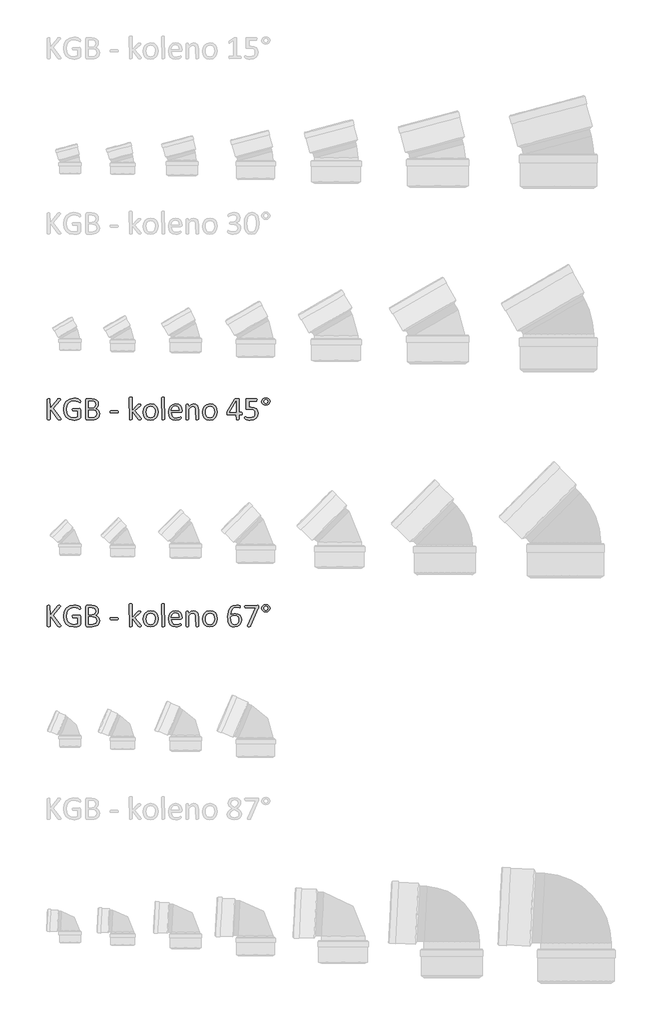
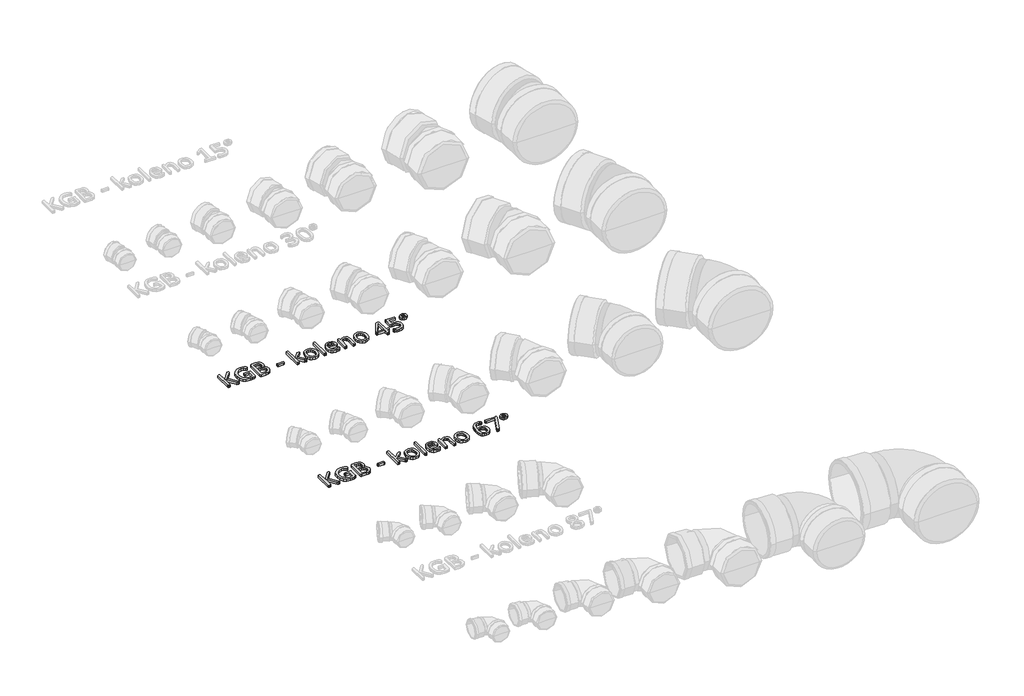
# One storey, part 10 of 11: 2 proxies.
"""IFC4 building model written with IfcOpenShell, lengths in millimetres."""

from ifc_helpers import new_model, si_unit, origin, origin_with_axes, place, context, project, spatial, polyline, outline, extrude, element, save

model = new_model("IFC4")

# Units and contexts
model_context = context("Model", 3, world=origin())
ifc_project = project(units=[si_unit("LENGTHUNIT", "METRE", prefix="MILLI")], contexts=[model_context])

# Site, building, storey
site = spatial("IfcSite", under=ifc_project)
building = spatial("IfcBuilding", under=site)
storey = spatial("IfcBuildingStorey", under=building, Name="Podlaží 1", Elevation=0.0)

# Proxies
placement = place(None, origin())
element("IfcBuildingElementProxy", 1, Name="120mm Arial", ObjectType="120mm Arial", at=placement, inside=storey, context=model_context, shape_type="SweptSolid", body=[
    extrude(outline(polyline([(-20461.7095957, 21408.4256246), (-20463.1390607, 21405.4038441), (-20465.6541954, 21404.8067258), (-20469.7254566, 21404.5714973), (-20475.0090489, 21404.8429147), (-20478.0670185, 21405.8562064), (-20479.7498064, 21407.5389944), (-20523.8641833, 21467.1784473), (-20523.8641833, 21407.5389944), (-20525.5650658, 21405.3676551), (-20528.062106, 21404.8067258), (-20531.9705167, 21404.5714973), (-20535.8427385, 21404.8067258), (-20538.3759677, 21405.3676551), (-20539.6968658, 21406.2904743), (-20539.6968658, 21522.0409538), (-20535.8427385, 21524.7732224), (-20531.9705167, 21525.0084509), (-20528.062106, 21524.7732224), (-20525.5650658, 21524.2122931), (-20523.8641833, 21469.0240857), (-20481.4144999, 21522.0409538), (-20480.0936018, 21523.4342299), (-20478.3022469, 21524.3208601), (-20475.7147342, 21524.8275059), (-20471.75204, 21525.0084509), (-20467.8798182, 21524.7732224), (-20465.5094395, 21524.1761041), (-20464.5685258, 21519.6524806), (-20466.8665265, 21516.3230936), (-20506.6382248, 21469.0240857), (-20463.7904625, 21412.4245078), (-20461.7095957, 21408.4256246)])), origin_with_axes(), (0.0, 0.0, 1.0), 15.0),
    extrude(outline(polyline([(-20350.1570388, 21509.2300519), (-20350.3379838, 21505.9549484), (-20350.8989131, 21503.5845697), (-20351.8398268, 21502.2455771), (-20356.7434347, 21503.6569477), (-20363.7279095, 21507.6377364), (-20374.1865272, 21511.6185251), (-20388.6259335, 21513.4279746), (-20406.4851993, 21509.7547922), (-20419.8751251, 21499.5856865), (-20428.2890649, 21484.1510829), (-20431.2203729, 21464.7537851), (-20428.0176475, 21444.0174947), (-20419.1332508, 21428.7638361), (-20405.5804746, 21419.3546991), (-20388.3364216, 21416.1519736), (-20377.0092683, 21417.4728717), (-20366.3697057, 21421.399377), (-20366.3697057, 21455.5255931), (-20393.40288, 21455.5255931), (-20395.7189753, 21457.208381), (-20396.478944, 21462.4376898), (-20396.2979991, 21465.6223208), (-20395.7008808, 21467.7936601), (-20355.7301431, 21469.4221646), (-20353.7216542, 21469.0602747), (-20351.8941103, 21467.9565106), (-20350.6094012, 21465.9118327), (-20350.1570388, 21462.9443357), (-20350.1570388, 21417.3462102), (-20350.9893856, 21413.1663821), (-20354.5178119, 21410.0722236), (-20361.4660977, 21407.15901), (-20370.2600219, 21404.4810249), (-20379.4339305, 21402.8163314), (-20388.5897446, 21402.2554021), (-20413.4334851, 21406.6342697), (-20431.9260582, 21419.1013762), (-20443.452251, 21438.462485), (-20447.4330398, 21463.6681154), (-20443.1446446, 21489.9051321), (-20431.039428, 21509.9357372), (-20412.2754375, 21522.7647336), (-20388.0469097, 21527.3245461), (-20375.1998188, 21526.148404), (-20364.5240672, 21523.3980409), (-20356.6710568, 21519.960087), (-20352.2921892, 21516.9202119), (-20350.6274957, 21514.0612818), (-20350.1570388, 21509.2300519)])), origin_with_axes(), (0.0, 0.0, 1.0), 15.0),
    extrude(outline(polyline([(-20241.3005616, 21438.6253355), (-20242.7300267, 21428.3114737), (-20246.7470044, 21419.8070615), (-20252.9715104, 21413.2025711), (-20261.1864108, 21408.4256246), (-20270.9755321, 21405.5305055), (-20282.9178983, 21404.5714973), (-20314.1489953, 21404.5714973), (-20318.1478786, 21406.0190569), (-20320.0478005, 21411.0855152), (-20320.0478005, 21518.4944329), (-20318.1297841, 21523.5608913), (-20314.0766174, 21525.0084509), (-20286.7177421, 21525.0084509), (-20269.0032323, 21522.927584), (-20257.5132284, 21516.8840229), (-20250.5830371, 21507.1491851), (-20248.2488474, 21494.1030547), (-20249.2802336, 21485.7976819), (-20252.3020141, 21478.4694117), (-20257.3322835, 21472.4620396), (-20264.2805693, 21468.119361), (-20255.3057001, 21464.7718796), (-20248.0317135, 21458.5654681), (-20243.110011, 21449.7534494), (-20241.3005616, 21438.6253355)]), holes=[polyline([(-20264.4615142, 21491.9317154), (-20265.6738453, 21499.9294819), (-20269.4736891, 21505.9911374), (-20276.24103, 21509.7909812), (-20287.2967659, 21511.1118793), (-20303.8351336, 21511.1118793), (-20303.8351336, 21471.7382599), (-20285.6320725, 21471.7382599), (-20275.6077227, 21473.3848588), (-20269.2927442, 21477.7999154), (-20265.6195618, 21484.2777444), (-20264.4615142, 21491.9317154)]), polyline([(-20257.5132284, 21438.4805795), (-20259.2141109, 21447.8173385), (-20264.1900968, 21454.5846794), (-20272.4049972, 21458.746413), (-20284.8359147, 21460.1577836), (-20303.8351336, 21460.1577836), (-20303.8351336, 21418.4680689), (-20280.782748, 21418.4680689), (-20271.265044, 21419.752778), (-20264.1177188, 21423.5526218), (-20259.2683944, 21429.8133168), (-20257.5132284, 21438.4805795)])]), origin_with_axes(), (0.0, 0.0, 1.0), 15.0),
    extrude(outline(polyline([(-20134.7601797, 21449.7715439), (-20135.6106209, 21445.2117313), (-20138.0895666, 21443.9451168), (-20177.6803199, 21443.9451168), (-20180.2316436, 21445.2479203), (-20181.0820849, 21449.7715439), (-20180.2316436, 21454.2589785), (-20177.6803199, 21455.5255931), (-20138.0895666, 21455.5255931), (-20134.9954081, 21452.485718), (-20134.7601797, 21449.7715439)])), origin_with_axes(), (0.0, 0.0, 1.0), 15.0),
    extrude(outline(polyline([(-20002.7427498, 21407.5028054), (-20006.814011, 21404.7524423), (-20010.8128943, 21404.5714973), (-20014.9384389, 21404.7162533), (-20017.6888021, 21405.1686156), (-20019.4982515, 21406.0733404), (-20020.7648661, 21407.5028054), (-20056.0129408, 21453.0647418), (-20056.0129408, 21407.3942384), (-20060.1384855, 21404.7524423), (-20064.1554632, 21404.5714973), (-20068.100063, 21404.7524423), (-20070.5971032, 21405.3133716), (-20072.2256076, 21531.3053348), (-20068.100063, 21534.0918869), (-20064.1554632, 21534.2728319), (-20060.1384855, 21534.0918869), (-20057.6957288, 21533.5309576), (-20056.4110197, 21532.5900439), (-20056.0129408, 21455.1637032), (-20023.8047411, 21489.3984862), (-20022.1943311, 21490.9003292), (-20020.1677478, 21491.8955264), (-20017.3811957, 21492.4383613), (-20013.4908794, 21492.5831172), (-20009.5100907, 21492.4383613), (-20006.922578, 21491.9859989), (-20005.493113, 21491.1717467), (-20005.6921524, 21487.6433203), (-20007.8092082, 21485.0919966), (-20039.800274, 21455.2722701), (-20005.0226561, 21411.809295), (-20003.2674902, 21409.2941603), (-20002.7427498, 21407.5028054)])), origin_with_axes(), (0.0, 0.0, 1.0), 15.0),
    extrude(outline(polyline([(-19907.7828442, 21449.482032), (-19910.4608293, 21430.5009075), (-19918.4766903, 21415.5548553), (-19931.830427, 21405.7657339), (-19950.4134726, 21402.2554021), (-19968.3270218, 21405.3495606), (-19981.0655458, 21414.3425242), (-19988.6652333, 21428.6733636), (-19991.1622735, 21447.7811495), (-19988.5204774, 21466.762274), (-19980.5588999, 21481.6902317), (-19967.2594467, 21491.4250696), (-19948.6402121, 21494.8992125), (-19930.7085683, 21491.805054), (-19917.9700444, 21482.8120903), (-19910.3341679, 21468.4812509), (-19907.7828442, 21449.482032)]), holes=[polyline([(-19923.995511, 21448.3963623), (-19925.2440311, 21460.9720358), (-19929.3514813, 21471.3582755), (-19937.0778303, 21478.4151282), (-19949.2554249, 21481.0026409), (-19960.8178067, 21478.6322622), (-19968.7793842, 21471.9372993), (-19973.4296692, 21461.6958156), (-19974.9496067, 21448.7582522), (-19973.7010866, 21436.1102008), (-19969.5574474, 21425.7601501), (-19961.7768149, 21418.7394863), (-19949.6173148, 21416.1519736), (-19938.091122, 21418.5223524), (-19930.0752611, 21425.1630318), (-19925.461165, 21435.3683265), (-19923.995511, 21448.3963623)])]), origin_with_axes(), (0.0, 0.0, 1.0), 15.0),
    extrude(outline(polyline([(-19870.72532, 21407.4304274), (-19874.8508647, 21404.7524423), (-19878.8678424, 21404.5714973), (-19882.8124422, 21404.7524423), (-19885.3094824, 21405.3133716), (-19886.9379868, 21531.3053348), (-19882.8124422, 21534.0918869), (-19878.8678424, 21534.2728319), (-19874.8508647, 21534.0918869), (-19872.408108, 21533.5309576), (-19870.72532, 21407.4304274)])), origin_with_axes(), (0.0, 0.0, 1.0), 15.0),
    extrude(outline(polyline([(-19771.1332238, 21452.8837969), (-19772.9245788, 21447.7811495), (-19777.0320289, 21446.261212), (-19831.3517006, 21446.261212), (-19829.9946135, 21432.8712863), (-19825.4890845, 21422.6659915), (-19817.2741841, 21416.1157846), (-19804.89755, 21413.8358784), (-19794.6198773, 21414.9034535), (-19786.8030558, 21417.3100213), (-19781.3928021, 21419.716589), (-19778.1900766, 21420.7841642), (-19775.8920758, 21417.8890451), (-19775.7654144, 21415.2472489), (-19775.8558868, 21413.311138), (-19780.3071324, 21407.9189788), (-19786.6582999, 21405.4219386), (-19795.705547, 21403.2325048), (-19806.6708105, 21402.2554021), (-19824.3491313, 21405.1505211), (-19837.1057498, 21413.7635004), (-19844.9225713, 21428.1124343), (-19847.5643674, 21448.1430394), (-19844.7959098, 21467.6850932), (-19836.8162378, 21482.3778225), (-19824.2224699, 21491.660298), (-19807.6841022, 21494.8992125), (-19791.0371675, 21491.768865), (-19779.7281086, 21483.3368307), (-19773.2140907, 21470.9059131), (-19771.1332238, 21455.670349), (-19771.1332238, 21452.8837969)]), holes=[polyline([(-19787.3458907, 21457.8416883), (-19788.5175092, 21468.46768), (-19792.5390105, 21476.5333008), (-19799.310875, 21481.6223773), (-19808.7335828, 21483.3187362), (-19818.3779482, 21481.2197748), (-19825.3081395, 21475.6285761), (-19829.6327236, 21467.5041482), (-19831.3517006, 21457.8416883), (-19787.3458907, 21457.8416883)])]), origin_with_axes(), (0.0, 0.0, 1.0), 15.0),
    extrude(outline(polyline([(-19676.1733182, 21407.4304274), (-19680.2988629, 21404.7524423), (-19684.2434626, 21404.5714973), (-19688.2604403, 21404.7524423), (-19690.703197, 21405.2952771), (-19692.385985, 21455.778916), (-19693.4535602, 21467.1422583), (-19696.5477187, 21474.5790955), (-19701.8132165, 21479.3560419), (-19709.2862426, 21481.0026409), (-19720.2696006, 21476.9675687), (-19731.7596044, 21465.115675), (-19731.7596044, 21407.4304274), (-19735.8851491, 21404.7524423), (-19739.9021268, 21404.5714973), (-19743.8467266, 21404.7524423), (-19746.3437668, 21405.2952771), (-19747.9722712, 21489.7603761), (-19744.2448054, 21492.4383613), (-19740.5897176, 21492.5831172), (-19737.0070077, 21492.4383613), (-19734.7994794, 21491.8955264), (-19733.3157309, 21478.8674906), (-19719.4734428, 21491.0450852), (-19705.5587768, 21494.8992125), (-19691.7345832, 21492.0764714), (-19682.6511471, 21484.5310673), (-19677.6751612, 21473.4753313), (-19676.1733182, 21458.2397672), (-19676.1733182, 21407.4304274)])), origin_with_axes(), (0.0, 0.0, 1.0), 15.0),
    extrude(outline(polyline([(-19569.6329362, 21449.482032), (-19572.3109214, 21430.5009075), (-19580.3267823, 21415.5548553), (-19593.680519, 21405.7657339), (-19612.2635646, 21402.2554021), (-19630.1771139, 21405.3495606), (-19642.9156378, 21414.3425242), (-19650.5153254, 21428.6733636), (-19653.0123656, 21447.7811495), (-19650.3705694, 21466.762274), (-19642.408992, 21481.6902317), (-19629.1095387, 21491.4250696), (-19610.4903042, 21494.8992125), (-19592.5586604, 21491.805054), (-19579.8201365, 21482.8120903), (-19572.1842599, 21468.4812509), (-19569.6329362, 21449.482032)]), holes=[polyline([(-19585.845603, 21448.3963623), (-19587.0941231, 21460.9720358), (-19591.2015733, 21471.3582755), (-19598.9279224, 21478.4151282), (-19611.105517, 21481.0026409), (-19622.6678988, 21478.6322622), (-19630.6294762, 21471.9372993), (-19635.2797612, 21461.6958156), (-19636.7996988, 21448.7582522), (-19635.5511787, 21436.1102008), (-19631.4075395, 21425.7601501), (-19623.626907, 21418.7394863), (-19611.4674068, 21416.1519736), (-19599.941214, 21418.5223524), (-19591.9253531, 21425.1630318), (-19587.3112571, 21435.3683265), (-19585.845603, 21448.3963623)])]), origin_with_axes(), (0.0, 0.0, 1.0), 15.0),
    extrude(outline(polyline([(-19427.4825896, 21439.3129262), (-19428.4235033, 21434.2283734), (-19431.0291105, 21432.3646405), (-19444.5637922, 21432.3646405), (-19444.5637922, 21407.4304274), (-19446.3008636, 21405.2952771), (-19448.8340928, 21404.7524423), (-19452.8148815, 21404.5714973), (-19456.6871033, 21404.7524423), (-19459.166049, 21405.2952771), (-19460.776459, 21432.3646405), (-19509.8125383, 21432.3646405), (-19511.6581767, 21432.6541524), (-19512.9790748, 21433.7217275), (-19513.8114215, 21435.9473503), (-19514.04665, 21439.7110051), (-19513.9561775, 21443.0042031), (-19513.5942876, 21445.6640937), (-19512.8524134, 21447.980189), (-19511.7667437, 21450.3505677), (-19469.0275484, 21522.1857098), (-19467.6523668, 21523.4523243), (-19465.3000825, 21524.3570491), (-19461.7535617, 21524.8636949), (-19456.7956703, 21525.0084509), (-19451.294944, 21524.7732224), (-19447.5131947, 21524.1761041), (-19445.3237609, 21523.2170959), (-19444.5637922, 21446.261212), (-19431.0291105, 21446.261212), (-19428.4596923, 21444.5422351), (-19427.4825896, 21439.3129262)]), holes=[polyline([(-19460.776459, 21511.0756903), (-19499.4986766, 21446.261212), (-19460.776459, 21446.261212), (-19460.776459, 21511.0756903)])]), origin_with_axes(), (0.0, 0.0, 1.0), 15.0),
    extrude(outline(polyline([(-19335.707315, 21442.2080453), (-19338.9824184, 21425.2173152), (-19348.2467994, 21412.6778307), (-19362.5052609, 21404.9152927), (-19380.9073615, 21402.2554021), (-19391.5650186, 21403.0515598), (-19400.5398877, 21405.0238597), (-19406.9996222, 21407.3218605), (-19410.2204421, 21409.1132154), (-19412.0479861, 21413.7092169), (-19412.1384585, 21416.6224305), (-19411.9937026, 21419.4813606), (-19411.4689622, 21421.5441329), (-19406.4567873, 21422.0145898), (-19401.1008171, 21419.6623055), (-19392.7592552, 21417.2738323), (-19380.9435505, 21416.1519736), (-19369.2726017, 21417.6176277), (-19360.1348821, 21422.2317237), (-19354.1094156, 21430.1209232), (-19351.9199818, 21441.6652105), (-19353.7475257, 21451.7619383), (-19359.3568189, 21459.0359249), (-19368.9469008, 21463.360509), (-19382.8253779, 21464.7899741), (-19392.6506883, 21464.2290448), (-19400.3046593, 21463.6681154), (-19404.0683141, 21464.8804466), (-19405.1901728, 21469.5669206), (-19405.1901728, 21518.9287008), (-19403.7426132, 21523.5066078), (-19399.5808795, 21525.0084509), (-19346.2021216, 21525.0084509), (-19343.5965144, 21523.3437574), (-19342.8908292, 21521.2086071), (-19342.6556007, 21518.168732), (-19343.5422309, 21512.9575177), (-19346.0211767, 21511.1118793), (-19388.9775059, 21511.1118793), (-19388.9775059, 21475.7190486), (-19382.6263385, 21476.2799779), (-19375.1533123, 21476.3704504), (-19357.9454483, 21473.9276937), (-19345.6773813, 21467.0336914), (-19338.2405441, 21456.2493728), (-19335.707315, 21442.2080453)])), origin_with_axes(), (0.0, 0.0, 1.0), 15.0),
    extrude(outline(polyline([(-19268.5405524, 21509.1576739), (-19270.2957183, 21500.8884901), (-19275.2355153, 21494.1030547), (-19282.7266359, 21489.5613367), (-19292.0633949, 21487.9509267), (-19301.255398, 21489.4346752), (-19308.4208177, 21493.6145034), (-19313.1615752, 21500.0742378), (-19314.8624576, 21508.4338941), (-19313.0530082, 21516.9383064), (-19308.0770223, 21523.6332693), (-19300.6401852, 21528.0302314), (-19291.3396151, 21529.6406414), (-19282.2018955, 21528.1207039), (-19274.9821924, 21523.9408757), (-19270.2414349, 21517.5173302), (-19268.5405524, 21509.1576739)]), holes=[polyline([(-19280.1210287, 21508.831973), (-19280.9895644, 21513.4279746), (-19283.4142267, 21517.1011569), (-19287.123598, 21519.5077246), (-19291.810072, 21520.3762603), (-19296.3336955, 21519.5077246), (-19299.9887834, 21517.1011569), (-19302.4134456, 21513.482258), (-19303.2819813, 21509.012918), (-19302.4134456, 21504.1997825), (-19299.9344999, 21500.4904112), (-19296.1346561, 21498.0838435), (-19291.4119931, 21497.2153077), (-19286.978842, 21498.1200324), (-19283.3780377, 21500.6170726), (-19280.9895644, 21504.290255), (-19280.1210287, 21508.831973)])]), origin_with_axes(), (0.0, 0.0, 1.0), 15.0),
])
element("IfcBuildingElementProxy", 2, Name="120mm Arial", ObjectType="120mm Arial", at=placement, inside=storey, context=model_context, shape_type="SweptSolid", body=[
    extrude(outline(polyline([(-20461.7095957, 20228.4256246), (-20463.1390607, 20225.4038441), (-20465.6541954, 20224.8067258), (-20469.7254566, 20224.5714973), (-20475.0090489, 20224.8429147), (-20478.0670185, 20225.8562064), (-20479.7498064, 20227.5389944), (-20523.8641833, 20287.1784473), (-20523.8641833, 20227.5389944), (-20525.5650658, 20225.3676551), (-20528.062106, 20224.8067258), (-20531.9705167, 20224.5714973), (-20535.8427385, 20224.8067258), (-20538.3759677, 20225.3676551), (-20539.6968658, 20226.2904743), (-20539.6968658, 20342.0409538), (-20535.8427385, 20344.7732224), (-20531.9705167, 20345.0084509), (-20528.062106, 20344.7732224), (-20525.5650658, 20344.2122931), (-20523.8641833, 20289.0240857), (-20481.4144999, 20342.0409538), (-20480.0936018, 20343.4342299), (-20478.3022469, 20344.3208601), (-20475.7147342, 20344.8275059), (-20471.75204, 20345.0084509), (-20467.8798182, 20344.7732224), (-20465.5094395, 20344.1761041), (-20464.5685258, 20339.6524806), (-20466.8665265, 20336.3230936), (-20506.6382248, 20289.0240857), (-20463.7904625, 20232.4245078), (-20461.7095957, 20228.4256246)])), origin_with_axes(), (0.0, 0.0, 1.0), 15.0),
    extrude(outline(polyline([(-20350.1570388, 20329.2300519), (-20350.3379838, 20325.9549484), (-20350.8989131, 20323.5845697), (-20351.8398268, 20322.2455771), (-20356.7434347, 20323.6569477), (-20363.7279095, 20327.6377364), (-20374.1865272, 20331.6185251), (-20388.6259335, 20333.4279746), (-20406.4851993, 20329.7547922), (-20419.8751251, 20319.5856865), (-20428.2890649, 20304.1510829), (-20431.2203729, 20284.7537851), (-20428.0176475, 20264.0174947), (-20419.1332508, 20248.7638361), (-20405.5804746, 20239.3546991), (-20388.3364216, 20236.1519736), (-20377.0092683, 20237.4728717), (-20366.3697057, 20241.399377), (-20366.3697057, 20275.5255931), (-20393.40288, 20275.5255931), (-20395.7189753, 20277.208381), (-20396.478944, 20282.4376898), (-20396.2979991, 20285.6223208), (-20395.7008808, 20287.7936601), (-20355.7301431, 20289.4221646), (-20353.7216542, 20289.0602747), (-20351.8941103, 20287.9565106), (-20350.6094012, 20285.9118327), (-20350.1570388, 20282.9443357), (-20350.1570388, 20237.3462102), (-20350.9893856, 20233.1663821), (-20354.5178119, 20230.0722236), (-20361.4660977, 20227.15901), (-20370.2600219, 20224.4810249), (-20379.4339305, 20222.8163314), (-20388.5897446, 20222.2554021), (-20413.4334851, 20226.6342697), (-20431.9260582, 20239.1013762), (-20443.452251, 20258.462485), (-20447.4330398, 20283.6681154), (-20443.1446446, 20309.9051321), (-20431.039428, 20329.9357372), (-20412.2754375, 20342.7647336), (-20388.0469097, 20347.3245461), (-20375.1998188, 20346.148404), (-20364.5240672, 20343.3980409), (-20356.6710568, 20339.960087), (-20352.2921892, 20336.9202119), (-20350.6274957, 20334.0612818), (-20350.1570388, 20329.2300519)])), origin_with_axes(), (0.0, 0.0, 1.0), 15.0),
    extrude(outline(polyline([(-20241.3005616, 20258.6253355), (-20242.7300267, 20248.3114737), (-20246.7470044, 20239.8070615), (-20252.9715104, 20233.2025711), (-20261.1864108, 20228.4256246), (-20270.9755321, 20225.5305055), (-20282.9178983, 20224.5714973), (-20314.1489953, 20224.5714973), (-20318.1478786, 20226.0190569), (-20320.0478005, 20231.0855152), (-20320.0478005, 20338.4944329), (-20318.1297841, 20343.5608913), (-20314.0766174, 20345.0084509), (-20286.7177421, 20345.0084509), (-20269.0032323, 20342.927584), (-20257.5132284, 20336.8840229), (-20250.5830371, 20327.1491851), (-20248.2488474, 20314.1030547), (-20249.2802336, 20305.7976819), (-20252.3020141, 20298.4694117), (-20257.3322835, 20292.4620396), (-20264.2805693, 20288.119361), (-20255.3057001, 20284.7718796), (-20248.0317135, 20278.5654681), (-20243.110011, 20269.7534494), (-20241.3005616, 20258.6253355)]), holes=[polyline([(-20264.4615142, 20311.9317154), (-20265.6738453, 20319.9294819), (-20269.4736891, 20325.9911374), (-20276.24103, 20329.7909812), (-20287.2967659, 20331.1118793), (-20303.8351336, 20331.1118793), (-20303.8351336, 20291.7382599), (-20285.6320725, 20291.7382599), (-20275.6077227, 20293.3848588), (-20269.2927442, 20297.7999154), (-20265.6195618, 20304.2777444), (-20264.4615142, 20311.9317154)]), polyline([(-20257.5132284, 20258.4805795), (-20259.2141109, 20267.8173385), (-20264.1900968, 20274.5846794), (-20272.4049972, 20278.746413), (-20284.8359147, 20280.1577836), (-20303.8351336, 20280.1577836), (-20303.8351336, 20238.4680689), (-20280.782748, 20238.4680689), (-20271.265044, 20239.752778), (-20264.1177188, 20243.5526218), (-20259.2683944, 20249.8133168), (-20257.5132284, 20258.4805795)])]), origin_with_axes(), (0.0, 0.0, 1.0), 15.0),
    extrude(outline(polyline([(-20134.7601797, 20269.7715439), (-20135.6106209, 20265.2117313), (-20138.0895666, 20263.9451168), (-20177.6803199, 20263.9451168), (-20180.2316436, 20265.2479203), (-20181.0820849, 20269.7715439), (-20180.2316436, 20274.2589785), (-20177.6803199, 20275.5255931), (-20138.0895666, 20275.5255931), (-20134.9954081, 20272.485718), (-20134.7601797, 20269.7715439)])), origin_with_axes(), (0.0, 0.0, 1.0), 15.0),
    extrude(outline(polyline([(-20002.7427498, 20227.5028054), (-20006.814011, 20224.7524423), (-20010.8128943, 20224.5714973), (-20014.9384389, 20224.7162533), (-20017.6888021, 20225.1686156), (-20019.4982515, 20226.0733404), (-20020.7648661, 20227.5028054), (-20056.0129408, 20273.0647418), (-20056.0129408, 20227.3942384), (-20060.1384855, 20224.7524423), (-20064.1554632, 20224.5714973), (-20068.100063, 20224.7524423), (-20070.5971032, 20225.3133716), (-20072.2256076, 20351.3053348), (-20068.100063, 20354.0918869), (-20064.1554632, 20354.2728319), (-20060.1384855, 20354.0918869), (-20057.6957288, 20353.5309576), (-20056.4110197, 20352.5900439), (-20056.0129408, 20275.1637032), (-20023.8047411, 20309.3984862), (-20022.1943311, 20310.9003292), (-20020.1677478, 20311.8955264), (-20017.3811957, 20312.4383613), (-20013.4908794, 20312.5831172), (-20009.5100907, 20312.4383613), (-20006.922578, 20311.9859989), (-20005.493113, 20311.1717467), (-20005.6921524, 20307.6433203), (-20007.8092082, 20305.0919966), (-20039.800274, 20275.2722701), (-20005.0226561, 20231.809295), (-20003.2674902, 20229.2941603), (-20002.7427498, 20227.5028054)])), origin_with_axes(), (0.0, 0.0, 1.0), 15.0),
    extrude(outline(polyline([(-19907.7828442, 20269.482032), (-19910.4608293, 20250.5009075), (-19918.4766903, 20235.5548553), (-19931.830427, 20225.7657339), (-19950.4134726, 20222.2554021), (-19968.3270218, 20225.3495606), (-19981.0655458, 20234.3425242), (-19988.6652333, 20248.6733636), (-19991.1622735, 20267.7811495), (-19988.5204774, 20286.762274), (-19980.5588999, 20301.6902317), (-19967.2594467, 20311.4250696), (-19948.6402121, 20314.8992125), (-19930.7085683, 20311.805054), (-19917.9700444, 20302.8120903), (-19910.3341679, 20288.4812509), (-19907.7828442, 20269.482032)]), holes=[polyline([(-19923.995511, 20268.3963623), (-19925.2440311, 20280.9720358), (-19929.3514813, 20291.3582755), (-19937.0778303, 20298.4151282), (-19949.2554249, 20301.0026409), (-19960.8178067, 20298.6322622), (-19968.7793842, 20291.9372993), (-19973.4296692, 20281.6958156), (-19974.9496067, 20268.7582522), (-19973.7010866, 20256.1102008), (-19969.5574474, 20245.7601501), (-19961.7768149, 20238.7394863), (-19949.6173148, 20236.1519736), (-19938.091122, 20238.5223524), (-19930.0752611, 20245.1630318), (-19925.461165, 20255.3683265), (-19923.995511, 20268.3963623)])]), origin_with_axes(), (0.0, 0.0, 1.0), 15.0),
    extrude(outline(polyline([(-19870.72532, 20227.4304274), (-19874.8508647, 20224.7524423), (-19878.8678424, 20224.5714973), (-19882.8124422, 20224.7524423), (-19885.3094824, 20225.3133716), (-19886.9379868, 20351.3053348), (-19882.8124422, 20354.0918869), (-19878.8678424, 20354.2728319), (-19874.8508647, 20354.0918869), (-19872.408108, 20353.5309576), (-19870.72532, 20227.4304274)])), origin_with_axes(), (0.0, 0.0, 1.0), 15.0),
    extrude(outline(polyline([(-19771.1332238, 20272.8837969), (-19772.9245788, 20267.7811495), (-19777.0320289, 20266.261212), (-19831.3517006, 20266.261212), (-19829.9946135, 20252.8712863), (-19825.4890845, 20242.6659915), (-19817.2741841, 20236.1157846), (-19804.89755, 20233.8358784), (-19794.6198773, 20234.9034535), (-19786.8030558, 20237.3100213), (-19781.3928021, 20239.716589), (-19778.1900766, 20240.7841642), (-19775.8920758, 20237.8890451), (-19775.7654144, 20235.2472489), (-19775.8558868, 20233.311138), (-19780.3071324, 20227.9189788), (-19786.6582999, 20225.4219386), (-19795.705547, 20223.2325048), (-19806.6708105, 20222.2554021), (-19824.3491313, 20225.1505211), (-19837.1057498, 20233.7635004), (-19844.9225713, 20248.1124343), (-19847.5643674, 20268.1430394), (-19844.7959098, 20287.6850932), (-19836.8162378, 20302.3778225), (-19824.2224699, 20311.660298), (-19807.6841022, 20314.8992125), (-19791.0371675, 20311.768865), (-19779.7281086, 20303.3368307), (-19773.2140907, 20290.9059131), (-19771.1332238, 20275.670349), (-19771.1332238, 20272.8837969)]), holes=[polyline([(-19787.3458907, 20277.8416883), (-19788.5175092, 20288.46768), (-19792.5390105, 20296.5333008), (-19799.310875, 20301.6223773), (-19808.7335828, 20303.3187362), (-19818.3779482, 20301.2197748), (-19825.3081395, 20295.6285761), (-19829.6327236, 20287.5041482), (-19831.3517006, 20277.8416883), (-19787.3458907, 20277.8416883)])]), origin_with_axes(), (0.0, 0.0, 1.0), 15.0),
    extrude(outline(polyline([(-19676.1733182, 20227.4304274), (-19680.2988629, 20224.7524423), (-19684.2434626, 20224.5714973), (-19688.2604403, 20224.7524423), (-19690.703197, 20225.2952771), (-19692.385985, 20275.778916), (-19693.4535602, 20287.1422583), (-19696.5477187, 20294.5790955), (-19701.8132165, 20299.3560419), (-19709.2862426, 20301.0026409), (-19720.2696006, 20296.9675687), (-19731.7596044, 20285.115675), (-19731.7596044, 20227.4304274), (-19735.8851491, 20224.7524423), (-19739.9021268, 20224.5714973), (-19743.8467266, 20224.7524423), (-19746.3437668, 20225.2952771), (-19747.9722712, 20309.7603761), (-19744.2448054, 20312.4383613), (-19740.5897176, 20312.5831172), (-19737.0070077, 20312.4383613), (-19734.7994794, 20311.8955264), (-19733.3157309, 20298.8674906), (-19719.4734428, 20311.0450852), (-19705.5587768, 20314.8992125), (-19691.7345832, 20312.0764714), (-19682.6511471, 20304.5310673), (-19677.6751612, 20293.4753313), (-19676.1733182, 20278.2397672), (-19676.1733182, 20227.4304274)])), origin_with_axes(), (0.0, 0.0, 1.0), 15.0),
    extrude(outline(polyline([(-19569.6329362, 20269.482032), (-19572.3109214, 20250.5009075), (-19580.3267823, 20235.5548553), (-19593.680519, 20225.7657339), (-19612.2635646, 20222.2554021), (-19630.1771139, 20225.3495606), (-19642.9156378, 20234.3425242), (-19650.5153254, 20248.6733636), (-19653.0123656, 20267.7811495), (-19650.3705694, 20286.762274), (-19642.408992, 20301.6902317), (-19629.1095387, 20311.4250696), (-19610.4903042, 20314.8992125), (-19592.5586604, 20311.805054), (-19579.8201365, 20302.8120903), (-19572.1842599, 20288.4812509), (-19569.6329362, 20269.482032)]), holes=[polyline([(-19585.845603, 20268.3963623), (-19587.0941231, 20280.9720358), (-19591.2015733, 20291.3582755), (-19598.9279224, 20298.4151282), (-19611.105517, 20301.0026409), (-19622.6678988, 20298.6322622), (-19630.6294762, 20291.9372993), (-19635.2797612, 20281.6958156), (-19636.7996988, 20268.7582522), (-19635.5511787, 20256.1102008), (-19631.4075395, 20245.7601501), (-19623.626907, 20238.7394863), (-19611.4674068, 20236.1519736), (-19599.941214, 20238.5223524), (-19591.9253531, 20245.1630318), (-19587.3112571, 20255.3683265), (-19585.845603, 20268.3963623)])]), origin_with_axes(), (0.0, 0.0, 1.0), 15.0),
    extrude(outline(polyline([(-19430.6672206, 20263.4384709), (-19433.0737883, 20247.9676784), (-19440.492531, 20234.8129811), (-19453.1948659, 20225.693356), (-19471.3436436, 20222.2554021), (-19484.5888134, 20224.1372295), (-19494.5950687, 20229.4931998), (-19501.6700159, 20238.033801), (-19506.211734, 20249.5961828), (-19508.6725852, 20263.8003608), (-19509.4144595, 20280.3387285), (-19508.6002072, 20296.1171275), (-19505.6688991, 20311.5336365), (-19499.951039, 20325.4844916), (-19490.9218864, 20336.847834), (-19477.911945, 20344.501805), (-19460.2698132, 20347.3245461), (-19453.4300943, 20346.9445617), (-19447.0246434, 20345.9312701), (-19442.0848465, 20344.537994), (-19439.4430503, 20343.3075684), (-19437.6155064, 20337.6982752), (-19437.6697899, 20334.9841011), (-19438.0316798, 20333.0479902), (-19442.8810042, 20332.2337379), (-19447.0608324, 20333.663203), (-19453.013921, 20335.092668), (-19461.1383489, 20335.7440698), (-19475.6863222, 20332.052793), (-19485.638294, 20322.1370102), (-19491.3561542, 20307.6976038), (-19493.4913045, 20290.8697241), (-19488.0810508, 20293.6743708), (-19481.4946549, 20296.171411), (-19473.9673453, 20297.9808604), (-19465.4448385, 20298.6865457), (-19449.0874157, 20296.0085605), (-19438.3030972, 20288.5898179), (-19432.4223866, 20277.4074205), (-19430.6672206, 20263.4384709)]), holes=[polyline([(-19446.8798874, 20262.9680141), (-19447.9474626, 20272.9380804), (-19451.4939835, 20280.5739569), (-19458.1346628, 20285.4051869), (-19468.3761466, 20287.1060694), (-19475.1977709, 20286.4908565), (-19481.8022613, 20284.7899741), (-19487.9001058, 20282.2386504), (-19493.2017926, 20279.0721139), (-19491.6818551, 20258.607241), (-19487.248704, 20245.3982602), (-19480.0109063, 20238.2871239), (-19469.8598951, 20236.1519736), (-19459.6184114, 20238.4318799), (-19452.4168027, 20244.5478189), (-19448.21888, 20253.1607982), (-19446.8798874, 20262.9680141)])]), origin_with_axes(), (0.0, 0.0, 1.0), 15.0),
    extrude(outline(polyline([(-19333.3912197, 20338.204921), (-19333.5359756, 20335.201235), (-19333.91596, 20332.6137223), (-19334.5673618, 20330.2252491), (-19335.52637, 20327.7824924), (-19379.0255341, 20228.1903962), (-19380.1835817, 20226.3809468), (-19381.9568422, 20225.2771826), (-19384.7072053, 20224.7162533), (-19388.796561, 20224.5714973), (-19393.7544524, 20224.8429147), (-19396.3238706, 20225.729545), (-19397.0295559, 20227.2132935), (-19396.3600596, 20229.3122548), (-19350.6533672, 20331.1118793), (-19408.5919377, 20331.1118793), (-19411.2518283, 20332.9575177), (-19412.1384585, 20338.0963541), (-19411.9032301, 20341.1543236), (-19411.1975448, 20343.3075684), (-19410.0756862, 20344.5922775), (-19338.2405441, 20345.0084509), (-19335.9606379, 20344.7370334), (-19334.4587948, 20343.6332693), (-19333.6626371, 20341.5162135), (-19333.3912197, 20338.204921)])), origin_with_axes(), (0.0, 0.0, 1.0), 15.0),
    extrude(outline(polyline([(-19268.5405524, 20329.1576739), (-19270.2957183, 20320.8884901), (-19275.2355153, 20314.1030547), (-19282.7266359, 20309.5613367), (-19292.0633949, 20307.9509267), (-19301.255398, 20309.4346752), (-19308.4208177, 20313.6145034), (-19313.1615752, 20320.0742378), (-19314.8624576, 20328.4338941), (-19313.0530082, 20336.9383064), (-19308.0770223, 20343.6332693), (-19300.6401852, 20348.0302314), (-19291.3396151, 20349.6406414), (-19282.2018955, 20348.1207039), (-19274.9821924, 20343.9408757), (-19270.2414349, 20337.5173302), (-19268.5405524, 20329.1576739)]), holes=[polyline([(-19280.1210287, 20328.831973), (-19280.9895644, 20333.4279746), (-19283.4142267, 20337.1011569), (-19287.123598, 20339.5077246), (-19291.810072, 20340.3762603), (-19296.3336955, 20339.5077246), (-19299.9887834, 20337.1011569), (-19302.4134456, 20333.482258), (-19303.2819813, 20329.012918), (-19302.4134456, 20324.1997825), (-19299.9344999, 20320.4904112), (-19296.1346561, 20318.0838435), (-19291.4119931, 20317.2153077), (-19286.978842, 20318.1200324), (-19283.3780377, 20320.6170726), (-19280.9895644, 20324.290255), (-19280.1210287, 20328.831973)])]), origin_with_axes(), (0.0, 0.0, 1.0), 15.0),
])

save(model, "model.ifc")
